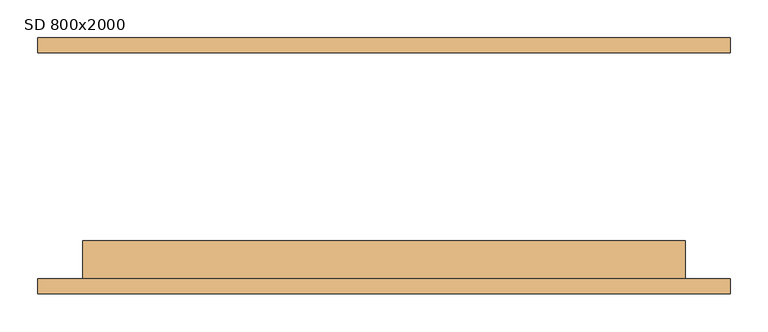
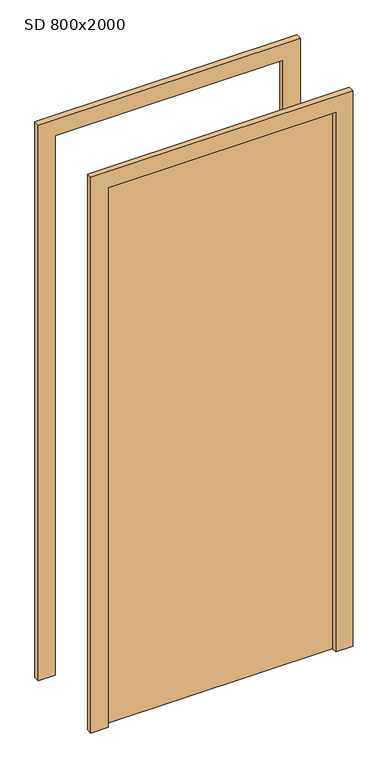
"""IFC4 building model written with IfcOpenShell, lengths in millimetres: door geometry, JednokridlePlne : SD 800x2000."""

from ifc_helpers import new_model, si_unit, frame, origin, origin_with_axes, place, context, project, spatial, polyline, outline, extrude, source, transform, mapped, element, save


def sd_800x2000_a65bdf52(model_context):
    return source(origin(), model_context, "Body", "SweptSolid", [
        extrude(outline(polyline([(2060.0, -460.0), (0.0, -460.0), (0.0, -400.0), (2000.0, -400.0), (2000.0, 400.0), (0.0, 400.0), (0.0, 460.0), (2060.0, 460.0), (2060.0, -460.0)])), frame((0.0, -170.0, 0.0), z_axis=(0.0, 1.0, 0.0), x_axis=(0.0, 0.0, 1.0)), (0.0, 0.0, 1.0), 20.0),
        extrude(outline(polyline([(2060.0, 460.0), (2060.0, -460.0), (0.0, -460.0), (0.0, -400.0), (2000.0, -400.0), (2000.0, 400.0), (0.0, 400.0), (0.0, 460.0), (2060.0, 460.0)])), frame((0.0, 150.0, 0.0), z_axis=(0.0, 1.0, 0.0), x_axis=(0.0, 0.0, 1.0)), (0.0, 0.0, 1.0), 20.0),
        extrude(outline(polyline([(400.0, -100.0), (400.0, -150.0), (-400.0, -150.0), (-400.0, -100.0), (400.0, -100.0)])), origin_with_axes(), (0.0, 0.0, 1.0), 2000.0),
    ])


if __name__ == "__main__":
    model = new_model("IFC4")
    model_context = context("Model", 3, world=origin())
    ifc_project = project(units=[si_unit("LENGTHUNIT", "METRE", prefix="MILLI")], contexts=[model_context])
    site = spatial("IfcSite", under=ifc_project)
    building = spatial("IfcBuilding", under=site)
    placement = place(None, origin())
    sd_800x2000_shape = sd_800x2000_a65bdf52(model_context)
    element("IfcDoor", 1, ObjectType="JednokridlePlne : SD 800x2000", at=placement, inside=building, context=model_context, shape_type="MappedRepresentation", body=[
        mapped(sd_800x2000_shape, transform((0.0, 0.0, 0.0), x_axis=(1.0, 0.0, 0.0), y_axis=(0.0, 1.0, 0.0), z_axis=(0.0, 0.0, 1.0))),
    ])
    save(model, "model.ifc")
